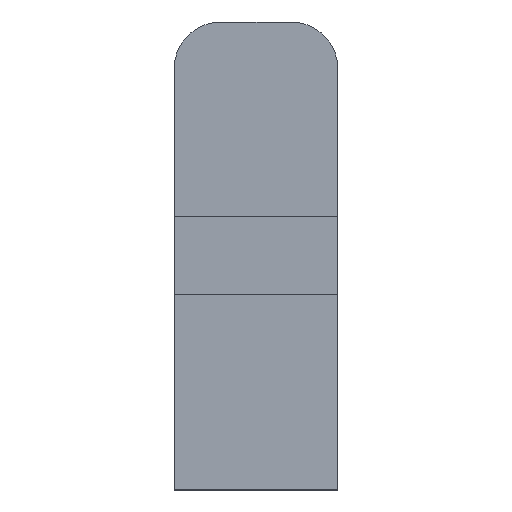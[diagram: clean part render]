
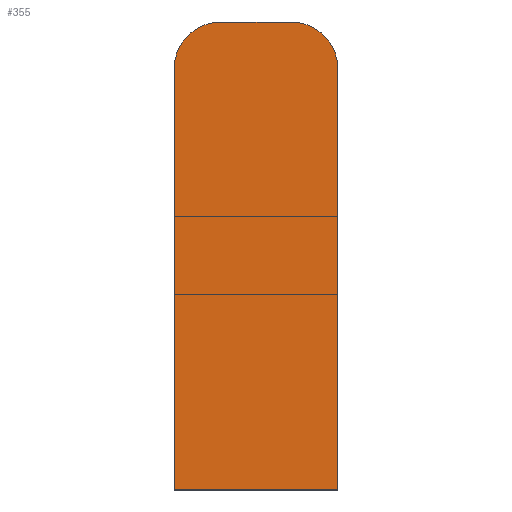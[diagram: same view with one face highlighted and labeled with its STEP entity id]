
A CAD part, front view. The second image highlights one B-rep face of the part: STEP entity #355.
In plain terms, the highlighted planar face has unit normal (0, -1, 0).
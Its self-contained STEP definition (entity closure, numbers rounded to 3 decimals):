
#8 = VERTEX_POINT ( 'NONE', #600 ) ;
#13 = VERTEX_POINT ( 'NONE', #24 ) ;
#14 = VERTEX_POINT ( 'NONE', #25 ) ;
#24 = CARTESIAN_POINT ( 'NONE',  ( -5.25, 0., 10.5 ) ) ;
#25 = CARTESIAN_POINT ( 'NONE',  ( -2.25, 0., 13.5 ) ) ;
#28 = CARTESIAN_POINT ( 'NONE',  ( 5.25, 0., -16.5 ) ) ;
#31 = CARTESIAN_POINT ( 'NONE',  ( -5.25, 0., -16.5 ) ) ;
#66 = CARTESIAN_POINT ( 'NONE',  ( 2.25, 0., 13.5 ) ) ;
#73 = DIRECTION ( 'NONE',  ( -1., 0., 0. ) ) ;
#75 = CARTESIAN_POINT ( 'NONE',  ( 5.25, 0., -16.5 ) ) ;
#81 = DIRECTION ( 'NONE',  ( 0., 0., 1. ) ) ;
#84 = CARTESIAN_POINT ( 'NONE',  ( -2.25, 0., 10.5 ) ) ;
#89 = DIRECTION ( 'NONE',  ( 0., -1., 0. ) ) ;
#90 = VERTEX_POINT ( 'NONE', #28 ) ;
#93 = CARTESIAN_POINT ( 'NONE',  ( 2.25, 0., 10.5 ) ) ;
#96 = VERTEX_POINT ( 'NONE', #31 ) ;
#99 = DIRECTION ( 'NONE',  ( 0., -1., 0. ) ) ;
#100 = DIRECTION ( 'NONE',  ( -1., 0., 0. ) ) ;
#113 = DIRECTION ( 'NONE',  ( -1., 0., 0. ) ) ;
#116 = CARTESIAN_POINT ( 'NONE',  ( 5.25, 0., -16.5 ) ) ;
#120 = DIRECTION ( 'NONE',  ( 1., 0., 0. ) ) ;
#146 = CARTESIAN_POINT ( 'NONE',  ( -5.25, 0., -16.5 ) ) ;
#147 = DIRECTION ( 'NONE',  ( 0., 0., -1. ) ) ;
#181 = PLANE ( 'NONE',  #293 ) ;
#185 = CARTESIAN_POINT ( 'NONE',  ( 0., 0., -1.5 ) ) ;
#191 = DIRECTION ( 'NONE',  ( 0., 1., 0. ) ) ;
#192 = DIRECTION ( 'NONE',  ( -1., 0., 0. ) ) ;
#224 = CARTESIAN_POINT ( 'NONE',  ( 5.25, 0., 10.5 ) ) ;
#253 = AXIS2_PLACEMENT_3D ( 'NONE', #84, #99, #113 ) ;
#281 = EDGE_CURVE ( 'NONE', #8, #14, #409, .T. ) ;
#285 = EDGE_CURVE ( 'NONE', #90, #593, #415, .T. ) ;
#293 = AXIS2_PLACEMENT_3D ( 'NONE', #185, #191, #192 ) ;
#309 = AXIS2_PLACEMENT_3D ( 'NONE', #93, #89, #100 ) ;
#312 = EDGE_CURVE ( 'NONE', #593, #8, #431, .T. ) ;
#314 = EDGE_CURVE ( 'NONE', #14, #13, #432, .T. ) ;
#319 = EDGE_CURVE ( 'NONE', #96, #90, #404, .T. ) ;
#333 = EDGE_CURVE ( 'NONE', #13, #96, #446, .T. ) ;
#355 = ADVANCED_FACE ( 'NONE', ( #473 ), #181, .F. ) ;
#372 = EDGE_LOOP ( 'NONE', ( #542, #568, #548, #546, #533, #560 ) ) ;
#404 = LINE ( 'NONE', #116, #437 ) ;
#407 = VECTOR ( 'NONE', #73, 1000. ) ;
#409 = LINE ( 'NONE', #66, #407 ) ;
#412 = VECTOR ( 'NONE', #81, 1000. ) ;
#415 = LINE ( 'NONE', #75, #412 ) ;
#431 = CIRCLE ( 'NONE', #309, 3. ) ;
#432 = CIRCLE ( 'NONE', #253, 3. ) ;
#437 = VECTOR ( 'NONE', #120, 1000. ) ;
#446 = LINE ( 'NONE', #146, #451 ) ;
#451 = VECTOR ( 'NONE', #147, 1000. ) ;
#473 = FACE_OUTER_BOUND ( 'NONE', #372, .T. ) ;
#533 = ORIENTED_EDGE ( 'NONE', *, *, #333, .T. ) ;
#542 = ORIENTED_EDGE ( 'NONE', *, *, #285, .T. ) ;
#546 = ORIENTED_EDGE ( 'NONE', *, *, #314, .T. ) ;
#548 = ORIENTED_EDGE ( 'NONE', *, *, #281, .T. ) ;
#560 = ORIENTED_EDGE ( 'NONE', *, *, #319, .T. ) ;
#568 = ORIENTED_EDGE ( 'NONE', *, *, #312, .T. ) ;
#593 = VERTEX_POINT ( 'NONE', #224 ) ;
#600 = CARTESIAN_POINT ( 'NONE',  ( 2.25, 0., 13.5 ) ) ;
